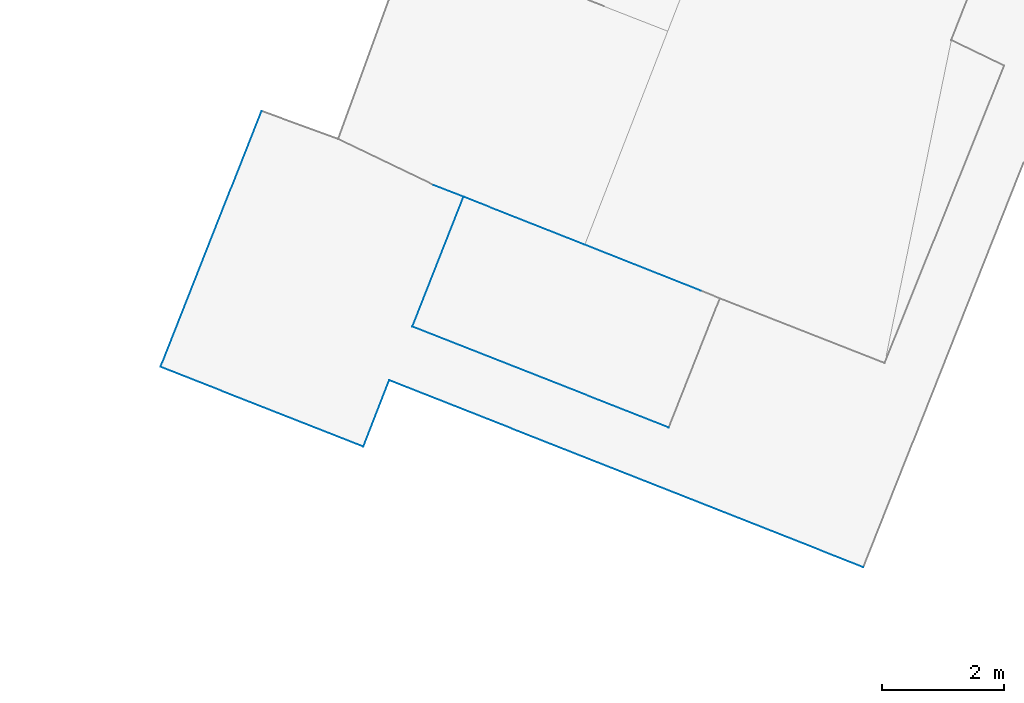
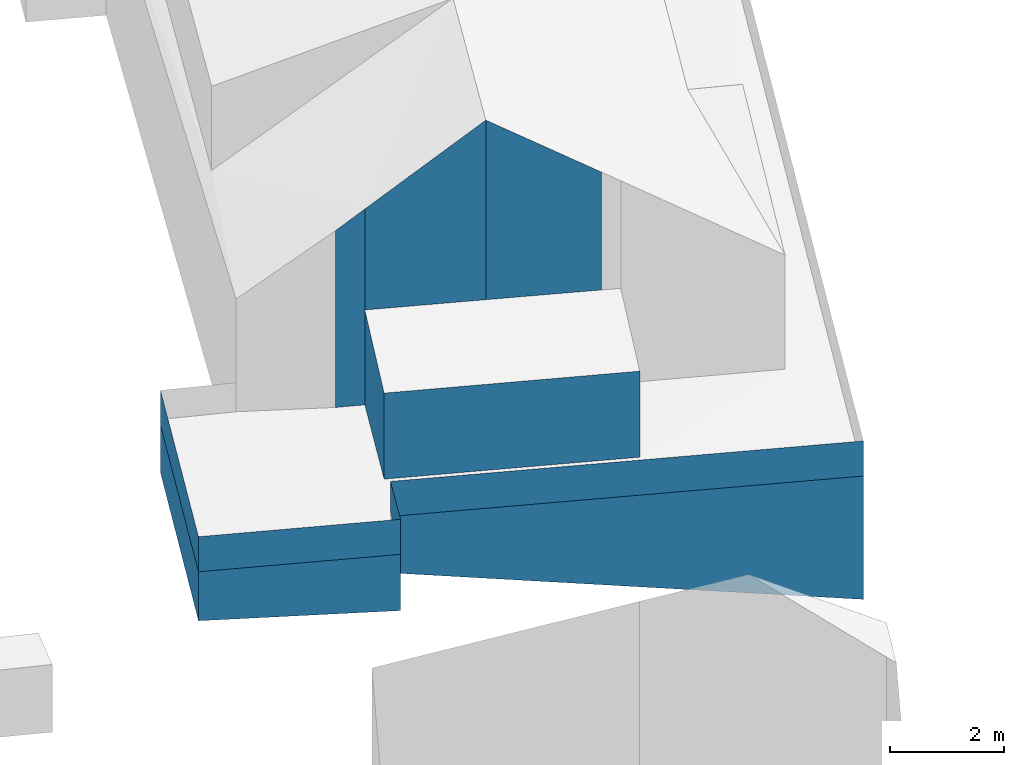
# Not in any storey, part 27 of 57: 17 walls.
"""IFC4 building model written with IfcOpenShell, lengths in metres."""

from ifc_helpers import new_model, entity, si_unit, converted_unit, origin, place, context, subcontext, project, spatial, face_set, surface_model, element, save


model = new_model("IFC4")

# Units and contexts
model_context = context("Model", 3, precision=1e-05, world=origin())
body_context = subcontext(model_context, "Body", "Model", "MODEL_VIEW")
ifc_project = project(units=[converted_unit("PLANEANGLEUNIT", "DEGREE", entity("IfcRatioMeasure", 0.0174532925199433), si_unit("PLANEANGLEUNIT", "RADIAN"), dimensions=[0, 0, 0, 0, 0, 0, 0]), si_unit("AREAUNIT", "SQUARE_METRE"), si_unit("LENGTHUNIT", "METRE")], contexts=[model_context])

# Site, building
site_placement = place(None, origin())
site = spatial("IfcSite", under=ifc_project, at=site_placement, Name="_site")
building_placement = place(site_placement, origin())
building = spatial("IfcBuilding", under=site, at=building_placement, Name="_building")

# Walls
wall_1_placement = place(building_placement, origin())
element("IfcWall", 1, at=wall_1_placement, inside=building, Name="Wall", PredefinedType="NOTDEFINED", context=body_context, shape_type="SurfaceModel", body=[
    surface_model("IfcFaceBasedSurfaceModel", [(269.157, 82.696, 112.03), (267.253, 83.451, 113.35), (267.253, 83.451, 109.51), (269.157, 82.696, 109.51)], [face_set([[[0, 1, 2, 3]]])]),
])
wall_2_placement = place(building_placement, origin())
element("IfcWall", 2, at=wall_2_placement, inside=building, Name="Wall", PredefinedType="NOTDEFINED", context=body_context, shape_type="SurfaceModel", body=[
    surface_model("IfcFaceBasedSurfaceModel", [(264.039, 81.224, 107.46), (263.614, 80.134, 107.46), (263.614, 80.134, 106.147), (264.039, 81.224, 106.144)], [face_set([[[0, 1, 2, 3]]])]),
])
wall_3_placement = place(building_placement, origin())
element("IfcWall", 3, at=wall_3_placement, inside=building, Name="Wall", PredefinedType="NOTDEFINED", context=body_context, shape_type="SurfaceModel", body=[
    surface_model("IfcFaceBasedSurfaceModel", [(267.253, 83.451, 113.35), (265.261, 84.238, 111.67), (265.261, 84.238, 109.51), (267.253, 83.451, 109.51)], [face_set([[[0, 1, 2, 3]]])]),
])
wall_4_placement = place(building_placement, origin())
element("IfcWall", 4, at=wall_4_placement, inside=building, Name="Wall", PredefinedType="NOTDEFINED", context=body_context, shape_type="SurfaceModel", body=[
    surface_model("IfcFaceBasedSurfaceModel", [(265.261, 84.238, 111.67), (264.775, 84.429, 111.26), (264.775, 84.429, 107.48), (265.261, 84.238, 107.48)], [face_set([[[0, 1, 2, 3]]])]),
])
wall_5_placement = place(building_placement, origin())
element("IfcWall", 5, at=wall_5_placement, inside=building, Name="Wall", PredefinedType="NOTDEFINED", context=body_context, shape_type="SurfaceModel", body=[
    surface_model("IfcFaceBasedSurfaceModel", [(260.282, 81.443, 107.46), (261.942, 85.646, 107.48), (261.942, 85.646, 106.333), (260.282, 81.443, 106.301)], [face_set([[[0, 1, 2, 3]]])]),
])
wall_6_placement = place(building_placement, origin())
element("IfcWall", 6, at=wall_6_placement, inside=building, Name="Wall", PredefinedType="NOTDEFINED", context=body_context, shape_type="SurfaceModel", body=[
    surface_model("IfcFaceBasedSurfaceModel", [(271.832, 78.151, 107.4), (264.039, 81.224, 107.46), (264.039, 81.224, 106.144), (271.832, 78.151, 104.712)], [face_set([[[0, 1, 2, 3]]])]),
])
wall_7_placement = place(building_placement, origin())
element("IfcWall", 7, at=wall_7_placement, inside=building, Name="Wall", PredefinedType="NOTDEFINED", context=body_context, shape_type="SurfaceModel", body=[
    surface_model("IfcFaceBasedSurfaceModel", [(263.614, 80.134, 107.46), (260.282, 81.443, 107.46), (260.282, 81.443, 106.301), (263.614, 80.134, 106.147)], [face_set([[[0, 1, 2, 3]]])]),
])
wall_8_placement = place(building_placement, origin())
element("IfcWall", 8, at=wall_8_placement, inside=building, Name="Wall", PredefinedType="NOTDEFINED", context=body_context, shape_type="SurfaceModel", body=[
    surface_model("IfcFaceBasedSurfaceModel", [(264.42, 82.106, 109.32), (265.261, 84.238, 109.51), (265.261, 84.238, 107.48), (264.42, 82.106, 107.48)], [face_set([[[0, 1, 2, 3]]])]),
])
wall_9_placement = place(building_placement, origin())
element("IfcWall", 9, at=wall_9_placement, inside=building, Name="Wall", PredefinedType="NOTDEFINED", context=body_context, shape_type="SurfaceModel", body=[
    surface_model("IfcFaceBasedSurfaceModel", [(268.634, 80.447, 109.32), (264.42, 82.106, 109.32), (264.42, 82.106, 107.48), (268.634, 80.447, 107.48)], [face_set([[[0, 1, 2, 3]]])]),
])
wall_10_placement = place(building_placement, origin())
element("IfcWall", 10, at=wall_10_placement, inside=building, Name="Wall", PredefinedType="NOTDEFINED", context=body_context, shape_type="SurfaceModel", body=[
    surface_model("IfcFaceBasedSurfaceModel", [(264.039, 81.224, 107.35), (271.832, 78.151, 107.35), (271.832, 78.151, 108.1), (264.039, 81.224, 108.1)], [face_set([[[0, 1, 2, 3]]])]),
])
wall_11_placement = place(building_placement, origin())
element("IfcWall", 11, at=wall_11_placement, inside=building, Name="Wall", PredefinedType="NOTDEFINED", context=body_context, shape_type="SurfaceModel", body=[
    surface_model("IfcFaceBasedSurfaceModel", [(263.614, 80.134, 107.35), (264.039, 81.224, 107.35), (264.039, 81.224, 108.1), (263.614, 80.134, 108.1)], [face_set([[[0, 1, 2, 3]]])]),
])
wall_12_placement = place(building_placement, origin())
element("IfcWall", 12, at=wall_12_placement, inside=building, Name="Wall", PredefinedType="NOTDEFINED", context=body_context, shape_type="SurfaceModel", body=[
    surface_model("IfcFaceBasedSurfaceModel", [(260.282, 81.443, 107.35), (263.614, 80.134, 107.35), (263.614, 80.134, 108.1), (260.282, 81.443, 108.1)], [face_set([[[0, 1, 2, 3]]])]),
])
wall_13_placement = place(building_placement, origin())
element("IfcWall", 13, at=wall_13_placement, inside=building, Name="Wall", PredefinedType="NOTDEFINED", context=body_context, shape_type="SurfaceModel", body=[
    surface_model("IfcFaceBasedSurfaceModel", [(261.942, 85.646, 107.35), (260.282, 81.443, 107.35), (260.282, 81.443, 108.1), (261.942, 85.646, 108.1)], [face_set([[[0, 1, 2, 3]]])]),
])
wall_14_placement = place(building_placement, origin())
element("IfcWall", 14, at=wall_14_placement, inside=building, Name="Wall", PredefinedType="NOTDEFINED", context=body_context, shape_type="SurfaceModel", body=[
    surface_model("IfcFaceBasedSurfaceModel", [(264.039, 81.224, 107.35), (271.832, 78.151, 107.35), (271.832, 78.151, 108.1), (264.039, 81.224, 108.1)], [face_set([[[0, 1, 2, 3]]])]),
])
wall_15_placement = place(building_placement, origin())
element("IfcWall", 15, at=wall_15_placement, inside=building, Name="Wall", PredefinedType="NOTDEFINED", context=body_context, shape_type="SurfaceModel", body=[
    surface_model("IfcFaceBasedSurfaceModel", [(263.614, 80.134, 107.35), (264.039, 81.224, 107.35), (264.039, 81.224, 108.1), (263.614, 80.134, 108.1)], [face_set([[[0, 1, 2, 3]]])]),
])
wall_16_placement = place(building_placement, origin())
element("IfcWall", 16, at=wall_16_placement, inside=building, Name="Wall", PredefinedType="NOTDEFINED", context=body_context, shape_type="SurfaceModel", body=[
    surface_model("IfcFaceBasedSurfaceModel", [(260.282, 81.443, 107.35), (263.614, 80.134, 107.35), (263.614, 80.134, 108.1), (260.282, 81.443, 108.1)], [face_set([[[0, 1, 2, 3]]])]),
])
wall_17_placement = place(building_placement, origin())
element("IfcWall", 17, at=wall_17_placement, inside=building, Name="Wall", PredefinedType="NOTDEFINED", context=body_context, shape_type="SurfaceModel", body=[
    surface_model("IfcFaceBasedSurfaceModel", [(261.942, 85.646, 107.35), (260.282, 81.443, 107.35), (260.282, 81.443, 108.1), (261.942, 85.646, 108.1)], [face_set([[[0, 1, 2, 3]]])]),
])

save(model, "model.ifc")
